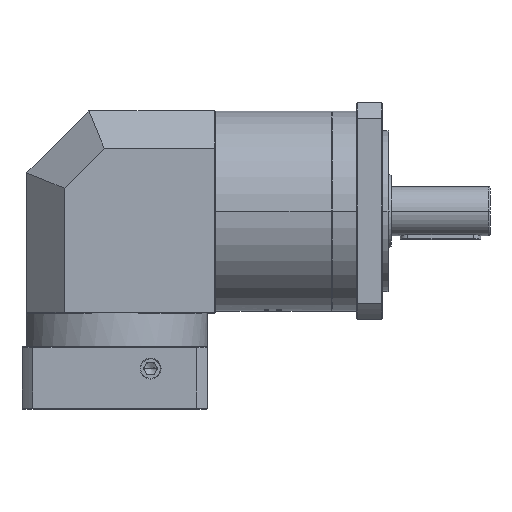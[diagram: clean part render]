
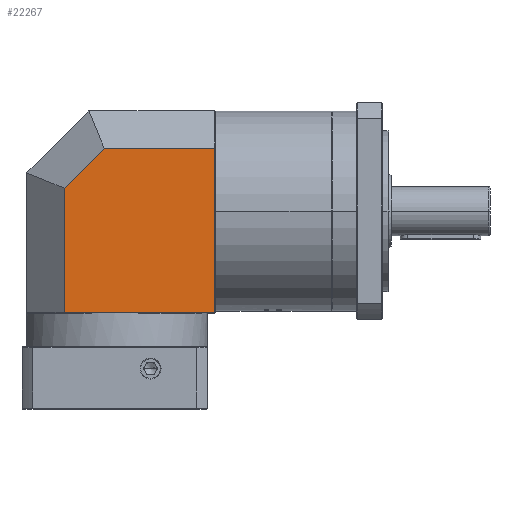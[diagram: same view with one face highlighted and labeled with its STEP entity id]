
A CAD part, top view. The second image highlights one B-rep face of the part: STEP entity #22267.
In plain terms, the highlighted planar face has unit normal (0, 0, 1).
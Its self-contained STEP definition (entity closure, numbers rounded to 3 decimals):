
#10644 = DIRECTION ( 'NONE',  ( 1., 0., 0. ) ) ;
#21417 = VERTEX_POINT ( 'NONE', #110267 ) ;
#22267 = ADVANCED_FACE ( 'NONE', ( #125341 ), #68408, .T. ) ;
#22933 = VECTOR ( 'NONE', #132040, 1000. ) ;
#27593 = VERTEX_POINT ( 'NONE', #85549 ) ;
#28980 = EDGE_CURVE ( 'NONE', #81104, #142818, #82499, .T. ) ;
#37568 = CARTESIAN_POINT ( 'NONE',  ( -70.437, -67.538, 337.082 ) ) ;
#42580 = LINE ( 'NONE', #65924, #90916 ) ;
#48457 = ORIENTED_EDGE ( 'NONE', *, *, #28980, .T. ) ;
#51448 = LINE ( 'NONE', #57552, #140760 ) ;
#53353 = EDGE_CURVE ( 'NONE', #81104, #27593, #42580, .T. ) ;
#54209 = ORIENTED_EDGE ( 'NONE', *, *, #53353, .F. ) ;
#55120 = CARTESIAN_POINT ( 'NONE',  ( -70.437, -148.788, 337.082 ) ) ;
#57552 = CARTESIAN_POINT ( 'NONE',  ( -24.337, -148.788, 337.082 ) ) ;
#59225 = CARTESIAN_POINT ( 'NONE',  ( -38.011, -15.788, 337.082 ) ) ;
#61603 = EDGE_CURVE ( 'NONE', #27593, #21417, #147954, .T. ) ;
#64108 = VECTOR ( 'NONE', #70075, 1000. ) ;
#65924 = CARTESIAN_POINT ( 'NONE',  ( -24.337, -15.788, 337.082 ) ) ;
#68408 = PLANE ( 'NONE',  #138882 ) ;
#70075 = DIRECTION ( 'NONE',  ( 0., -1., 0. ) ) ;
#73919 = CARTESIAN_POINT ( 'NONE',  ( -38.011, -15.788, 337.082 ) ) ;
#81104 = VERTEX_POINT ( 'NONE', #73919 ) ;
#81316 = VERTEX_POINT ( 'NONE', #55120 ) ;
#82278 = ORIENTED_EDGE ( 'NONE', *, *, #112821, .T. ) ;
#82499 = LINE ( 'NONE', #59225, #22933 ) ;
#85549 = CARTESIAN_POINT ( 'NONE',  ( 51.263, -15.788, 337.082 ) ) ;
#86352 = EDGE_LOOP ( 'NONE', ( #140573, #148976, #54209, #48457, #82278 ) ) ;
#90916 = VECTOR ( 'NONE', #113246, 1000. ) ;
#105394 = DIRECTION ( 'NONE',  ( 1., 0., 0. ) ) ;
#106494 = LINE ( 'NONE', #37568, #123145 ) ;
#110267 = CARTESIAN_POINT ( 'NONE',  ( 51.263, -148.788, 337.082 ) ) ;
#112821 = EDGE_CURVE ( 'NONE', #142818, #81316, #106494, .T. ) ;
#113246 = DIRECTION ( 'NONE',  ( 1., 0., 0. ) ) ;
#116334 = CARTESIAN_POINT ( 'NONE',  ( 51.263, -67.538, 337.082 ) ) ;
#120771 = DIRECTION ( 'NONE',  ( 0., -1., 0. ) ) ;
#123145 = VECTOR ( 'NONE', #120771, 1000. ) ;
#125341 = FACE_OUTER_BOUND ( 'NONE', #86352, .T. ) ;
#127939 = CARTESIAN_POINT ( 'NONE',  ( -70.437, -48.215, 337.082 ) ) ;
#128742 = CARTESIAN_POINT ( 'NONE',  ( -24.337, -67.538, 337.082 ) ) ;
#129261 = DIRECTION ( 'NONE',  ( 0., 0., 1. ) ) ;
#132040 = DIRECTION ( 'NONE',  ( -0.707, -0.707, 0. ) ) ;
#138882 = AXIS2_PLACEMENT_3D ( 'NONE', #128742, #129261, #10644 ) ;
#140573 = ORIENTED_EDGE ( 'NONE', *, *, #150053, .T. ) ;
#140760 = VECTOR ( 'NONE', #105394, 1000. ) ;
#142818 = VERTEX_POINT ( 'NONE', #127939 ) ;
#147954 = LINE ( 'NONE', #116334, #64108 ) ;
#148976 = ORIENTED_EDGE ( 'NONE', *, *, #61603, .F. ) ;
#150053 = EDGE_CURVE ( 'NONE', #81316, #21417, #51448, .T. ) ;
